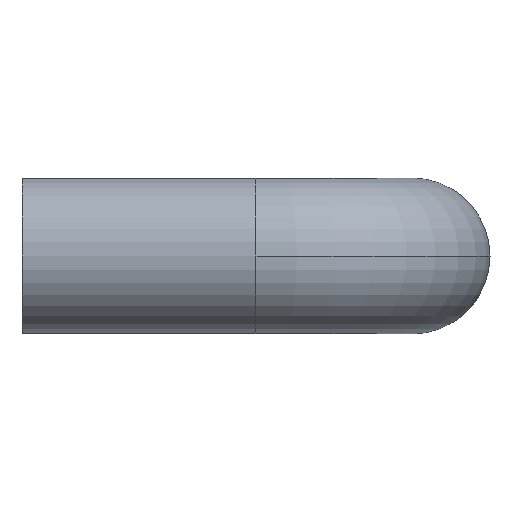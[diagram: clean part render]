
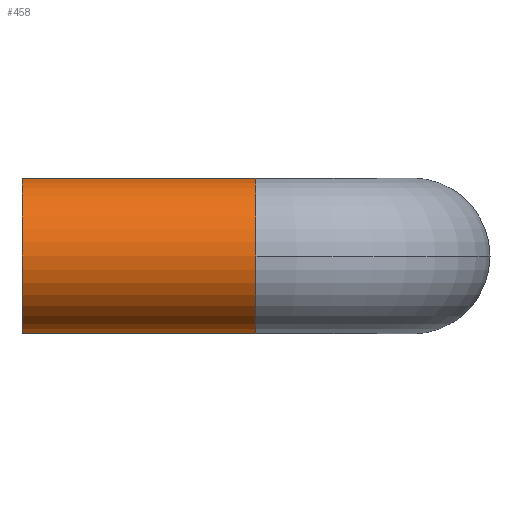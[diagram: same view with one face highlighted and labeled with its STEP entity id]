
A CAD part, front view. The second image highlights one B-rep face of the part: STEP entity #458.
In plain terms, the highlighted cylindrical face has radius 5 mm (diameter 10 mm), a partial arc.
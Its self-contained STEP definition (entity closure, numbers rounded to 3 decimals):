
#46 = AXIS2_PLACEMENT_3D ( 'NONE', #1073, #848, #620 ) ;
#67 = VERTEX_POINT ( 'NONE', #668 ) ;
#116 = CYLINDRICAL_SURFACE ( 'NONE', #46, 5. ) ;
#163 = VERTEX_POINT ( 'NONE', #871 ) ;
#329 = VECTOR ( 'NONE', #663, 1000. ) ;
#355 = VERTEX_POINT ( 'NONE', #1879 ) ;
#399 = CARTESIAN_POINT ( 'NONE',  ( -10., -64., 5. ) ) ;
#444 = AXIS2_PLACEMENT_3D ( 'NONE', #2077, #1612, #1379 ) ;
#458 = ADVANCED_FACE ( 'NONE', ( #658 ), #116, .T. ) ;
#482 = CARTESIAN_POINT ( 'NONE',  ( -10., -64., -5. ) ) ;
#523 = VERTEX_POINT ( 'NONE', #1835 ) ;
#620 = DIRECTION ( 'NONE',  ( 0., 0., 1. ) ) ;
#632 = EDGE_CURVE ( 'NONE', #67, #163, #713, .T. ) ;
#658 = FACE_OUTER_BOUND ( 'NONE', #1217, .T. ) ;
#663 = DIRECTION ( 'NONE',  ( -1., 0., 0. ) ) ;
#668 = CARTESIAN_POINT ( 'NONE',  ( -25., -64., -5. ) ) ;
#712 = CARTESIAN_POINT ( 'NONE',  ( -25., -64., 0. ) ) ;
#713 = CIRCLE ( 'NONE', #934, 5. ) ;
#719 = DIRECTION ( 'NONE',  ( -1., 0., 0. ) ) ;
#814 = ORIENTED_EDGE ( 'NONE', *, *, #632, .F. ) ;
#826 = CIRCLE ( 'NONE', #444, 5. ) ;
#848 = DIRECTION ( 'NONE',  ( -1., 0., 0. ) ) ;
#862 = LINE ( 'NONE', #399, #1530 ) ;
#871 = CARTESIAN_POINT ( 'NONE',  ( -25., -64., 5. ) ) ;
#890 = CARTESIAN_POINT ( 'NONE',  ( -10., -64., -5. ) ) ;
#934 = AXIS2_PLACEMENT_3D ( 'NONE', #712, #2040, #1803 ) ;
#1010 = EDGE_CURVE ( 'NONE', #1930, #355, #1261, .T. ) ;
#1073 = CARTESIAN_POINT ( 'NONE',  ( -10., -64., 0. ) ) ;
#1117 = LINE ( 'NONE', #890, #329 ) ;
#1165 = ORIENTED_EDGE ( 'NONE', *, *, #1010, .T. ) ;
#1176 = EDGE_CURVE ( 'NONE', #523, #163, #862, .T. ) ;
#1217 = EDGE_LOOP ( 'NONE', ( #1449, #1165, #1487, #1462, #814 ) ) ;
#1261 = CIRCLE ( 'NONE', #1673, 5. ) ;
#1306 = DIRECTION ( 'NONE',  ( 0., 0., -1. ) ) ;
#1379 = DIRECTION ( 'NONE',  ( 0., 0., -1. ) ) ;
#1449 = ORIENTED_EDGE ( 'NONE', *, *, #1494, .F. ) ;
#1462 = ORIENTED_EDGE ( 'NONE', *, *, #1176, .T. ) ;
#1487 = ORIENTED_EDGE ( 'NONE', *, *, #2150, .T. ) ;
#1494 = EDGE_CURVE ( 'NONE', #1930, #67, #1117, .T. ) ;
#1530 = VECTOR ( 'NONE', #719, 1000. ) ;
#1539 = DIRECTION ( 'NONE',  ( -1., 0., 0. ) ) ;
#1612 = DIRECTION ( 'NONE',  ( -1., 0., 0. ) ) ;
#1673 = AXIS2_PLACEMENT_3D ( 'NONE', #1762, #1539, #1306 ) ;
#1762 = CARTESIAN_POINT ( 'NONE',  ( -10., -64., 0. ) ) ;
#1803 = DIRECTION ( 'NONE',  ( 0., 0., -1. ) ) ;
#1835 = CARTESIAN_POINT ( 'NONE',  ( -10., -64., 5. ) ) ;
#1879 = CARTESIAN_POINT ( 'NONE',  ( -10., -69., 0. ) ) ;
#1930 = VERTEX_POINT ( 'NONE', #482 ) ;
#2040 = DIRECTION ( 'NONE',  ( -1., 0., 0. ) ) ;
#2077 = CARTESIAN_POINT ( 'NONE',  ( -10., -64., 0. ) ) ;
#2150 = EDGE_CURVE ( 'NONE', #355, #523, #826, .T. ) ;
